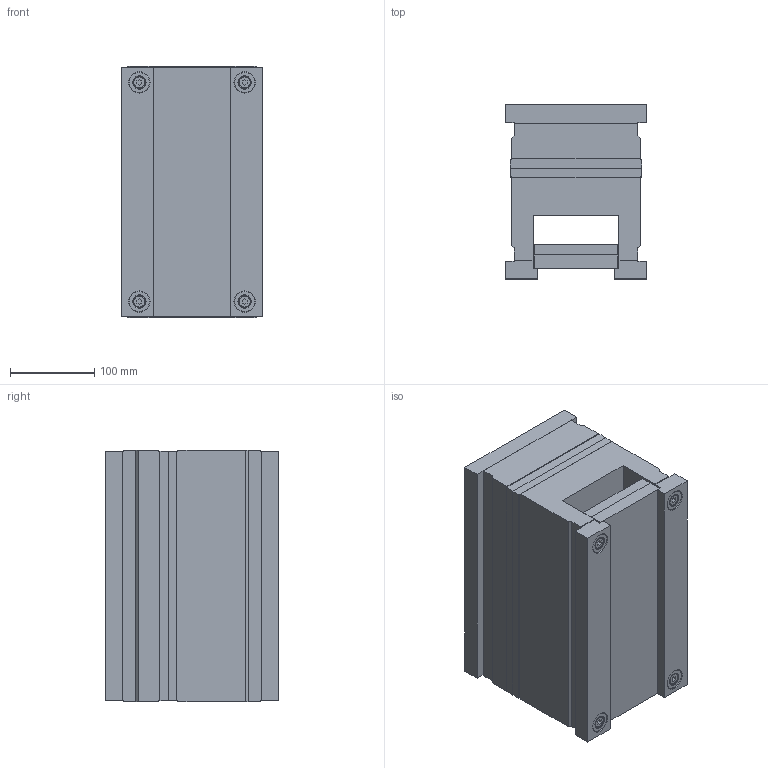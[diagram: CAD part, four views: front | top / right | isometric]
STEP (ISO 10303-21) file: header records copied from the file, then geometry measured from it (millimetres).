
FILE_DESCRIPTION (( 'STEP AP214' ), '1' );
FILE_NAME ('1564.STEP', '2002-07-10T07:50:19', ( 'Simcha Kilim' ), ( 'K. Plastics Engineering' ), 'SwSTEP 2.0', 'SolidWorks 2002025', '' );
FILE_SCHEMA (( 'AUTOMOTIVE_DESIGN' ));
Length unit declared in the file: millimetre
Products named in the file (12): 1564; ALMO (ejector return plate)_1564; ALMO (guide bush)_Ø15; ALMO (ejector half)_1564; ALMO (guide bush)_Ø14; ALMO (guide pin)_Ø15; ALMO (ejector plate)_1564; ALMO (screw)_M8x90; ALMO (guide pin)_Ø14; ALMO (hot half)_1564; ALMO (key plate)_Ø14; ALMO (screw)_M8x50
Assembly tree (28 placements, depth 2):
  1564
    ALMO (guide pin)_Ø15
    ALMO (ejector plate)_1564
    ALMO (screw)_M8x50  x4
    ALMO (guide bush)_Ø15
    ALMO (key plate)_Ø14  x8
    ALMO (guide bush)_Ø14  x3
    ALMO (screw)_M8x90  x4
    ALMO (ejector half)_1564
    ALMO (guide pin)_Ø14  x3
    ALMO (hot half)_1564
    ALMO (ejector return plate)_1564
Bounding box: 167 x 206 x 298 mm (x, y, z)
Volume: 8032925.5 mm3; surface area: 685485 mm2
Topology: 28 solids, 28 shells, 706 faces, 1496 edges, 924 vertices
Faces by surface type: cylinder 260, plane 254, cone 192
Entity records: 10477 total; most frequent: DIRECTION 1914, CARTESIAN_POINT 1683, ORIENTED_EDGE 1584, EDGE_CURVE 792, AXIS2_PLACEMENT_3D 729, VERTEX_POINT 498, LINE 456, VECTOR 456
